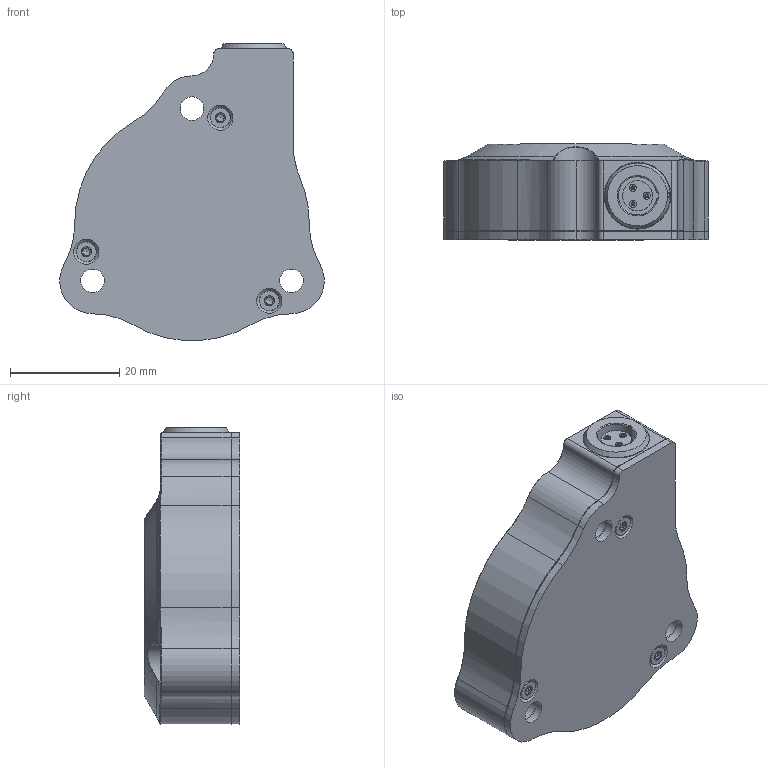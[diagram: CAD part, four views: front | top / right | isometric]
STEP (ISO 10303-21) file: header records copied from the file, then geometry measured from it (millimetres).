
FILE_DESCRIPTION( ( 'Unknown' ), '1' );
FILE_NAME( 'N:/Engineering/CAD/Wirbelstrom/Wirbelstromsensoren/T14/T14-DSC_Kunde.stp', 'Unknown', ( 'Unknown' ), ( 'Unknown' ), 'PSStep 17.0.49', 'Unknown', ' ' );
FILE_SCHEMA( ( 'AUTOMOTIVE_DESIGN { 1 0 10303 214 1 1 1 1 }' ) );
Length unit declared in the file: millimetre
Products named in the file (1): 1
Bounding box: 48.37 x 17.5 x 54.29 mm (x, y, z)
Surface area: 12529.7 mm2 (no closed solid volume)
Topology: 0 solids, 416 shells, 450 faces, 2357 edges, 2224 vertices
Faces by surface type: cylinder 164, bspline 120, cone 82, plane 63, torus 15, sphere 3, extrusion 3
Full cylindrical faces by diameter (mm): 0.4 x3, 0.66 x3, 0.7 x3, 0.9 x1, 1.06 x3, 1.3 x3, 1.366 x3, 1.5 x33, 1.838 x3, 2 x3, 3.65 x3, 4.3 x6, 5.5 x1, 6 x1, 8 x4, 8.2 x1, 8.4 x3, 11 x1, 12 x1, 26 x1, 30.9 x1, 31.9 x1, 35.9 x1
Entity records: 89166 total; most frequent: CARTESIAN_POINT 72029, DIRECTION 2315, VERTEX_POINT 2109, ORIENTED_EDGE 2100, EDGE_CURVE 2100, AXIS2_PLACEMENT_3D 984, B_SPLINE_CURVE_WITH_KNOTS 929, CIRCLE 690
